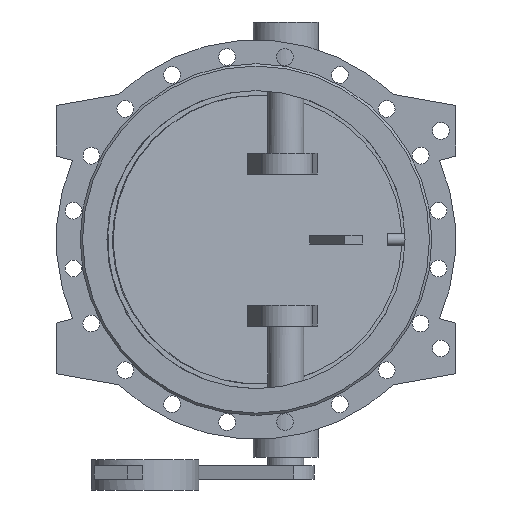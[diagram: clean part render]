
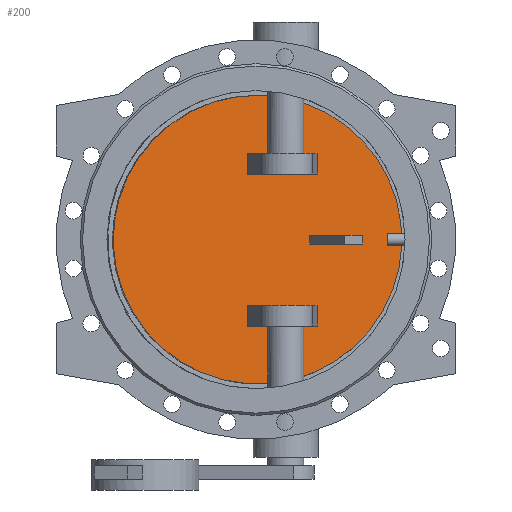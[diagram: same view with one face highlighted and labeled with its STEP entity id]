
A CAD part, front view. The second image highlights one B-rep face of the part: STEP entity #200.
In plain terms, the highlighted planar face has unit normal (0.131, -0.991, 0).
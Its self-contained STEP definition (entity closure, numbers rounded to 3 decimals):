
#200=ADVANCED_FACE('',(#1439,#1441,#1443,#1445),#1447,.T.);
#1439=FACE_BOUND('',#1440,.T.);
#1440=EDGE_LOOP('',(#2738));
#1441=FACE_BOUND('',#1442,.T.);
#1442=EDGE_LOOP('',(#2739,#2740,#2741,#2742));
#1443=FACE_BOUND('',#1444,.T.);
#1444=EDGE_LOOP('',(#2743,#2744,#2745,#2746));
#1445=FACE_BOUND('',#1446,.T.);
#1446=EDGE_LOOP('',(#2747,#2748,#2749,#2750));
#1447=PLANE('',#1448);
#1448=AXIS2_PLACEMENT_3D('',#1449,#1450,#1451);
#1449=CARTESIAN_POINT('',(-1.272,9.66,0.));
#1450=DIRECTION('',(0.131,-0.991,0.));
#1451=DIRECTION('',(0.,0.,-1.));
#2738=ORIENTED_EDGE('',*,*,#3285,.T.);
#2739=ORIENTED_EDGE('',*,*,#3289,.F.);
#2740=ORIENTED_EDGE('',*,*,#3290,.F.);
#2741=ORIENTED_EDGE('',*,*,#3291,.F.);
#2742=ORIENTED_EDGE('',*,*,#3292,.F.);
#2743=ORIENTED_EDGE('',*,*,#3293,.F.);
#2744=ORIENTED_EDGE('',*,*,#3294,.F.);
#2745=ORIENTED_EDGE('',*,*,#3295,.F.);
#2746=ORIENTED_EDGE('',*,*,#3296,.F.);
#2747=ORIENTED_EDGE('',*,*,#3297,.F.);
#2748=ORIENTED_EDGE('',*,*,#3298,.F.);
#2749=ORIENTED_EDGE('',*,*,#3299,.F.);
#2750=ORIENTED_EDGE('',*,*,#3300,.F.);
#3285=EDGE_CURVE('',#3592,#3592,#3593,.T.);
#3289=EDGE_CURVE('',#3600,#3601,#3602,.T.);
#3290=EDGE_CURVE('',#3603,#3600,#3604,.F.);
#3291=EDGE_CURVE('',#3605,#3603,#3606,.T.);
#3292=EDGE_CURVE('',#3601,#3605,#3607,.T.);
#3293=EDGE_CURVE('',#3608,#3609,#3610,.F.);
#3294=EDGE_CURVE('',#3611,#3608,#3612,.T.);
#3295=EDGE_CURVE('',#3613,#3611,#3614,.T.);
#3296=EDGE_CURVE('',#3609,#3613,#3615,.T.);
#3297=EDGE_CURVE('',#3616,#3617,#3618,.T.);
#3298=EDGE_CURVE('',#3619,#3616,#3620,.F.);
#3299=EDGE_CURVE('',#3621,#3619,#3622,.F.);
#3300=EDGE_CURVE('',#3617,#3621,#3623,.F.);
#3592=VERTEX_POINT('',#4496);
#3593=B_SPLINE_CURVE_WITH_KNOTS('',3,
(#4497,#4498,#4499,#4500,#4501,#4502,#4503,#4504,#4505,#4506,#4507,#4508,#4509,#4510,
#4511,#4512,#4513,#4514,#4515,#4516,#4517,#4518,#4519,#4520,#4521,#4522,#4523,#4524,
#4525,#4526,#4527,#4528,#4529,#4530,#4531,#4532,#4533,#4534,#4535,#4536,#4537,#4538,
#4539,#4540,#4541,#4542,#4543,#4544,#4545,#4546,#4547),
.UNSPECIFIED.,.T.,.F.,
(4,1,1,1,1,1,1,1,1,1,1,1,1,1,1,1,1,1,1,1,1,1,1,1,1,1,1,1,1,1,1,1,1,1,1,1,1,1,1,1,
1,1,1,1,1,1,1,1,4),
(0.,0.021,0.042,0.063,0.084,
0.105,0.126,0.147,0.168,0.189,
0.211,0.232,0.253,0.274,0.295,
0.316,0.337,0.358,0.379,0.4,
0.421,0.442,0.463,0.484,0.505,
0.526,0.548,0.569,0.59,0.611,
0.632,0.653,0.674,0.695,0.716,
0.737,0.758,0.779,0.8,0.821,
0.843,0.864,0.885,0.906,0.927,
0.948,0.969,0.986,1.),
.UNSPECIFIED.);
#3600=VERTEX_POINT('',#4610);
#3601=VERTEX_POINT('',#4611);
#3602=LINE('',#4612,#4613);
#3603=VERTEX_POINT('',#4615);
#3604=LINE('',#4616,#4617);
#3605=VERTEX_POINT('',#4619);
#3606=LINE('',#4620,#4621);
#3607=LINE('',#4623,#4624);
#3608=VERTEX_POINT('',#4626);
#3609=VERTEX_POINT('',#4627);
#3610=LINE('',#4628,#4629);
#3611=VERTEX_POINT('',#4631);
#3612=LINE('',#4632,#4633);
#3613=VERTEX_POINT('',#4635);
#3614=LINE('',#4636,#4637);
#3615=LINE('',#4639,#4640);
#3616=VERTEX_POINT('',#4642);
#3617=VERTEX_POINT('',#4643);
#3618=LINE('',#4644,#4645);
#3619=VERTEX_POINT('',#4647);
#3620=LINE('',#4648,#4649);
#3621=VERTEX_POINT('',#4651);
#3622=LINE('',#4652,#4653);
#3623=LINE('',#4655,#4656);
#4496=CARTESIAN_POINT('',(2.611,10.171,242.));
#4497=CARTESIAN_POINT('',(2.611,10.171,242.));
#4498=CARTESIAN_POINT('',(-8.021,8.771,242.));
#4499=CARTESIAN_POINT('',(-29.311,5.969,240.596));
#4500=CARTESIAN_POINT('',(-60.73,1.832,234.3));
#4501=CARTESIAN_POINT('',(-91.089,-2.165,223.903));
#4502=CARTESIAN_POINT('',(-119.83,-5.949,209.58));
#4503=CARTESIAN_POINT('',(-146.424,-9.45,191.594));
#4504=CARTESIAN_POINT('',(-170.413,-12.608,170.255));
#4505=CARTESIAN_POINT('',(-191.375,-15.368,145.938));
#4506=CARTESIAN_POINT('',(-208.943,-17.681,119.068));
#4507=CARTESIAN_POINT('',(-222.811,-19.506,90.115));
#4508=CARTESIAN_POINT('',(-232.736,-20.813,59.585));
#4509=CARTESIAN_POINT('',(-238.543,-21.577,28.012));
#4510=CARTESIAN_POINT('',(-240.132,-21.787,-4.05));
#4511=CARTESIAN_POINT('',(-237.474,-21.437,-36.041));
#4512=CARTESIAN_POINT('',(-230.616,-20.534,-67.401));
#4513=CARTESIAN_POINT('',(-219.679,-19.094,-97.581));
#4514=CARTESIAN_POINT('',(-204.855,-17.142,-126.053));
#4515=CARTESIAN_POINT('',(-186.401,-14.713,-152.321));
#4516=CARTESIAN_POINT('',(-164.642,-11.848,-175.924));
#4517=CARTESIAN_POINT('',(-139.958,-8.598,-196.45));
#4518=CARTESIAN_POINT('',(-112.779,-5.02,-213.541));
#4519=CARTESIAN_POINT('',(-83.582,-1.176,-226.897));
#4520=CARTESIAN_POINT('',(-52.876,2.866,-236.284));
#4521=CARTESIAN_POINT('',(-21.199,7.037,-241.538));
#4522=CARTESIAN_POINT('',(10.895,11.262,-242.566));
#4523=CARTESIAN_POINT('',(42.844,15.468,-239.352));
#4524=CARTESIAN_POINT('',(74.089,19.581,-231.95));
#4525=CARTESIAN_POINT('',(104.084,23.53,-220.49));
#4526=CARTESIAN_POINT('',(132.303,27.245,-205.174));
#4527=CARTESIAN_POINT('',(158.253,30.662,-186.269));
#4528=CARTESIAN_POINT('',(181.481,33.72,-164.105));
#4529=CARTESIAN_POINT('',(201.58,36.366,-139.07));
#4530=CARTESIAN_POINT('',(218.198,38.554,-111.603));
#4531=CARTESIAN_POINT('',(231.046,40.245,-82.182));
#4532=CARTESIAN_POINT('',(239.897,41.41,-51.324));
#4533=CARTESIAN_POINT('',(244.597,42.029,-19.568));
#4534=CARTESIAN_POINT('',(245.063,42.091,12.53));
#4535=CARTESIAN_POINT('',(241.288,41.594,44.409));
#4536=CARTESIAN_POINT('',(233.338,40.547,75.509));
#4537=CARTESIAN_POINT('',(221.353,38.969,105.289));
#4538=CARTESIAN_POINT('',(205.542,36.888,133.226));
#4539=CARTESIAN_POINT('',(186.182,34.339,158.832));
#4540=CARTESIAN_POINT('',(163.61,31.367,181.661));
#4541=CARTESIAN_POINT('',(138.229,28.026,201.308));
#4542=CARTESIAN_POINT('',(110.512,24.377,217.415));
#4543=CARTESIAN_POINT('',(80.861,20.473,229.756));
#4544=CARTESIAN_POINT('',(51.618,16.623,237.597));
#4545=CARTESIAN_POINT('',(25.327,13.162,241.321));
#4546=CARTESIAN_POINT('',(9.553,11.085,242.));
#4547=CARTESIAN_POINT('',(2.611,10.171,242.));
#4610=CARTESIAN_POINT('',(164.358,31.466,-7.5));
#4611=CARTESIAN_POINT('',(164.358,31.466,7.5));
#4612=CARTESIAN_POINT('',(164.358,31.466,-7.5));
#4613=VECTOR('',#4614,1.);
#4614=DIRECTION('',(0.,0.,1.));
#4615=CARTESIAN_POINT('',(90.,21.676,-7.5));
#4616=CARTESIAN_POINT('',(164.358,31.466,-7.5));
#4617=VECTOR('',#4618,1.);
#4618=DIRECTION('',(-0.991,-0.131,0.));
#4619=CARTESIAN_POINT('',(90.,21.676,7.5));
#4620=CARTESIAN_POINT('',(90.,21.676,7.5));
#4621=VECTOR('',#4622,1.);
#4622=DIRECTION('',(0.,0.,-1.));
#4623=CARTESIAN_POINT('',(164.358,31.466,7.5));
#4624=VECTOR('',#4625,1.);
#4625=DIRECTION('',(-0.991,-0.131,0.));
#4626=CARTESIAN_POINT('',(-14.418,7.929,-145.));
#4627=CARTESIAN_POINT('',(102.407,23.31,-145.));
#4628=CARTESIAN_POINT('',(102.407,23.31,-145.));
#4629=VECTOR('',#4630,1.);
#4630=DIRECTION('',(-0.991,-0.131,0.));
#4631=CARTESIAN_POINT('',(-14.418,7.929,-110.));
#4632=CARTESIAN_POINT('',(-14.418,7.929,-110.));
#4633=VECTOR('',#4634,1.);
#4634=DIRECTION('',(0.,0.,-1.));
#4635=CARTESIAN_POINT('',(102.407,23.31,-110.));
#4636=CARTESIAN_POINT('',(102.407,23.31,-110.));
#4637=VECTOR('',#4638,1.);
#4638=DIRECTION('',(-0.991,-0.131,0.));
#4639=CARTESIAN_POINT('',(102.407,23.31,-145.));
#4640=VECTOR('',#4641,1.);
#4641=DIRECTION('',(0.,0.,1.));
#4642=CARTESIAN_POINT('',(102.407,23.31,145.));
#4643=CARTESIAN_POINT('',(-14.418,7.929,145.));
#4644=CARTESIAN_POINT('',(102.407,23.31,145.));
#4645=VECTOR('',#4646,1.);
#4646=DIRECTION('',(-0.991,-0.131,0.));
#4647=CARTESIAN_POINT('',(102.407,23.31,110.));
#4648=CARTESIAN_POINT('',(102.407,23.31,145.));
#4649=VECTOR('',#4650,1.);
#4650=DIRECTION('',(0.,0.,-1.));
#4651=CARTESIAN_POINT('',(-14.418,7.929,110.));
#4652=CARTESIAN_POINT('',(102.407,23.31,110.));
#4653=VECTOR('',#4654,1.);
#4654=DIRECTION('',(-0.991,-0.131,0.));
#4655=CARTESIAN_POINT('',(-14.418,7.929,110.));
#4656=VECTOR('',#4657,1.);
#4657=DIRECTION('',(0.,0.,1.));
